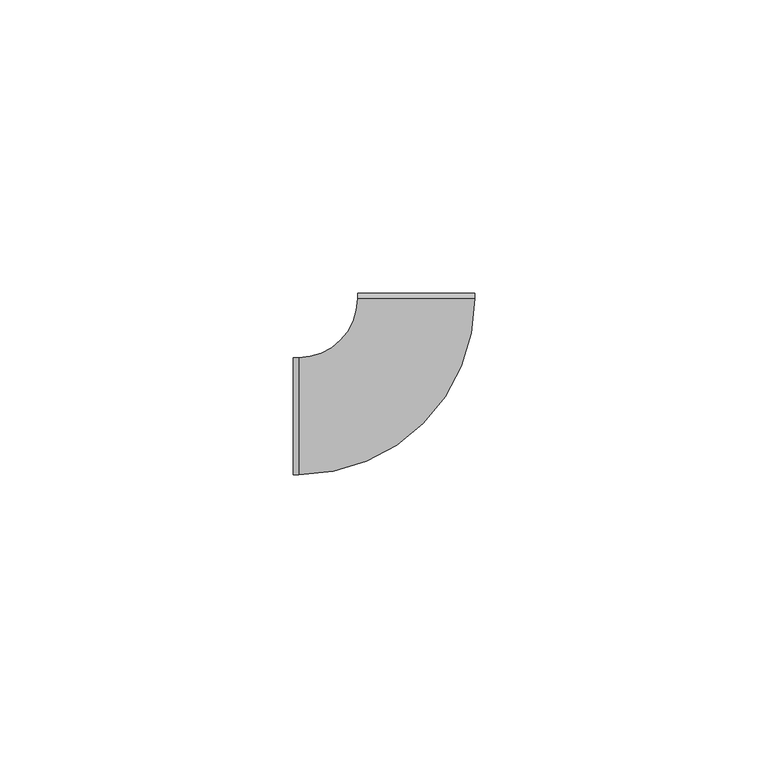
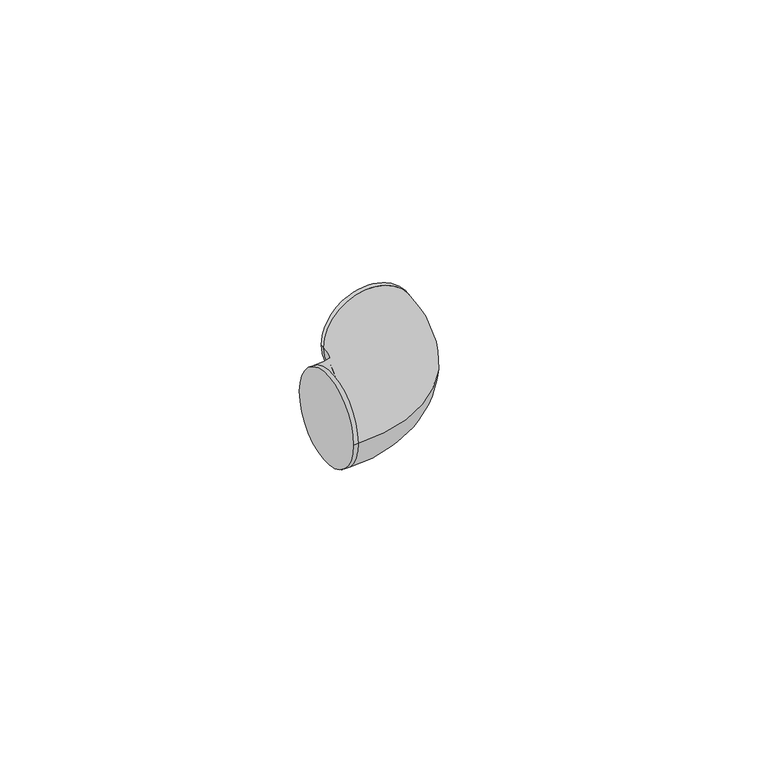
"""IFC4 building model written with IfcOpenShell, lengths in millimetres: cable carrier fitting geometry, ADSK_Поворот_Минимальный размер : Неспецифицируемый."""

from ifc_helpers import new_model, si_unit, point, frame, origin, place, context, project, spatial, circle_curve, ellipse_curve, trimmed, source, transform, mapped, element, save
from ifc_brep_helpers import plane_surface, cylinder_surface, revolved_surface, advanced_brep


def cable_carrier_fitting_562c9cff(model_context):
    return source(origin(), model_context, "Body", "AdvancedBrep", [
        advanced_brep(
        [(-20.9999981, -10.0, 0.0), (-20.9999981, 10.0, 0.0), (-19.9999981, -10.0, 0.0), (-19.9999981, 10.0, 0.0), (-9.9999981, 19.9999991, 0.0), (10.0000019, 19.9999972, 0.0), (10.0000019, 20.9999972, 0.0), (-9.9999981, 20.9999991, 0.0)],
        [
            (0, 1, circle_curve(frame((-20.9999981, 0.0, 0.0), z_axis=(-1.0, -4.92260399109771e-12, 0.0), x_axis=(-4.92260399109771e-12, 1.0, 0.0)), 10.0)),
            (1, 0, circle_curve(frame((-20.9999981, 0.0, 0.0), z_axis=(-1.0, -4.92260399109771e-12, 0.0), x_axis=(-4.92260399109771e-12, 1.0, 0.0)), 10.0)),
            (0, 2),
            (2, 3, circle_curve(frame((-19.9999981, 0.0, 0.0), z_axis=(-1.0, -4.92260399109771e-12, 0.0), x_axis=(-4.92260399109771e-12, 1.0, 0.0)), 10.0)),
            (3, 1),
            (3, 2, circle_curve(frame((-19.9999981, 0.0, 0.0), z_axis=(-1.0, -4.92260399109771e-12, 0.0), x_axis=(-4.92260399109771e-12, 1.0, 0.0)), 10.0)),
            (4, 3, circle_curve(frame((-19.9999981, 20.0, 0.0), z_axis=(0.0, 0.0, -1.0), x_axis=(0.0, -1.0, 0.0)), 10.0)),
            (2, 5, circle_curve(frame((-19.9999981, 20.0, 0.0), z_axis=(0.0, 0.0, 1.0), x_axis=(0.0, -1.0, 0.0)), 30.0)),
            (5, 4, circle_curve(frame((1.9e-06, 19.9999981, 0.0), z_axis=(-9.25415633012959e-08, -0.9999999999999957, 0.0), x_axis=(-0.9999999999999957, 9.25415633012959e-08, 0.0)), 10.0)),
            (4, 5, circle_curve(frame((1.9e-06, 19.9999981, 0.0), z_axis=(-9.25415633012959e-08, -0.9999999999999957, 0.0), x_axis=(-0.9999999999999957, 9.25415633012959e-08, 0.0)), 10.0)),
            (6, 7, circle_curve(frame((1.9e-06, 20.9999981, 0.0), z_axis=(9.254156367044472e-08, 0.9999999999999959, 0.0), x_axis=(-0.9999999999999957, 9.25415636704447e-08, 0.0)), 10.0)),
            (7, 6, circle_curve(frame((1.9e-06, 20.9999981, 0.0), z_axis=(9.254156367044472e-08, 0.9999999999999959, 0.0), x_axis=(-0.9999999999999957, 9.25415636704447e-08, 0.0)), 10.0)),
            (5, 6),
            (7, 4),
        ],
        [
            plane_surface(frame((-20.9999981, 0.0, 0.0), z_axis=(-1.0, -4.92260399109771e-12, 0.0), x_axis=(0.0, 0.0, 1.0))),
            cylinder_surface(frame((-20.9999981, 0.0, 0.0), z_axis=(-1.0, -4.92260399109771e-12, 0.0), x_axis=(-4.92260399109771e-12, 1.0, 0.0)), 10.0),
            revolved_surface(trimmed(ellipse_curve(frame((-19.9999981, 0.0, 0.0), z_axis=(-1.0, 0.0, 0.0), x_axis=(0.0, 1.0, 0.0)), 10.0, 10.0), [point((-19.9999981, -10.0, 0.0))], [point((-19.9999981, 10.0, 0.0))], True, "CARTESIAN"), (-19.9999981, 20.0, 0.0), (0.0, 0.0, 1.0)),
            revolved_surface(trimmed(ellipse_curve(frame((-19.9999981, 0.0, 0.0), z_axis=(-1.0, 0.0, 0.0), x_axis=(0.0, 1.0, 0.0)), 10.0, 10.0), [point((-19.9999981, 10.0, 0.0))], [point((-19.9999981, -10.0, 0.0))], True, "CARTESIAN"), (-19.9999981, 20.0, 0.0), (0.0, 0.0, 1.0)),
            plane_surface(frame((1.9e-06, 20.9999981, 0.0), z_axis=(9.254156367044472e-08, 0.9999999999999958, 0.0), x_axis=(0.0, 0.0, 1.0))),
            cylinder_surface(frame((1.9e-06, 19.9999981, 0.0), z_axis=(-9.25415636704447e-08, -0.9999999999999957, 0.0), x_axis=(-0.9999999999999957, 9.25415636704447e-08, 0.0)), 10.0),
        ],
        [
            (0, [[1, 2]]),
            (1, [[-1, 3, 4, 5]]),
            (1, [[-2, -5, 6, -3]]),
            (2, [[7, -4, 8, 9]]),
            (3, [[-8, -6, -7, 10]]),
            (4, [[11, 12]]),
            (5, [[-9, 13, -12, 14]]),
            (5, [[-10, -14, -11, -13]]),
        ],
    ),
    ])


if __name__ == "__main__":
    model = new_model("IFC4")
    model_context = context("Model", 3, world=origin())
    ifc_project = project(units=[si_unit("LENGTHUNIT", "METRE", prefix="MILLI")], contexts=[model_context])
    site = spatial("IfcSite", under=ifc_project)
    building = spatial("IfcBuilding", under=site)
    placement = place(None, origin())
    cable_carrier_fitting_shape = cable_carrier_fitting_562c9cff(model_context)
    element("IfcCableCarrierFitting", 1, ObjectType="ADSK_Поворот_Минимальный размер : Неспецифицируемый", at=placement, inside=building, context=model_context, shape_type="MappedRepresentation", body=[
        mapped(cable_carrier_fitting_shape, transform((0.0, 0.0, 0.0), x_axis=(1.0, 0.0, 0.0), y_axis=(0.0, 1.0, 0.0), z_axis=(0.0, 0.0, 1.0))),
    ])
    save(model, "model.ifc")
